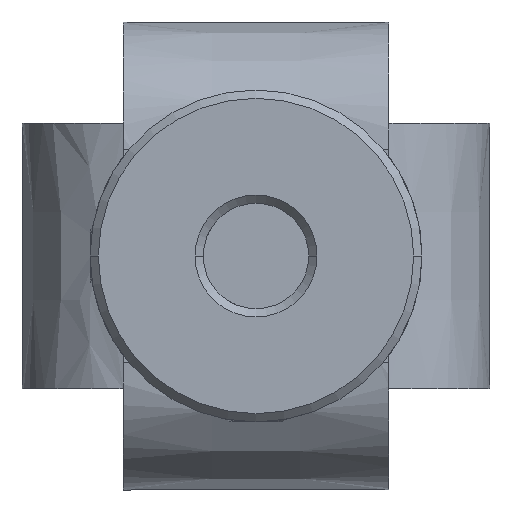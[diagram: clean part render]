
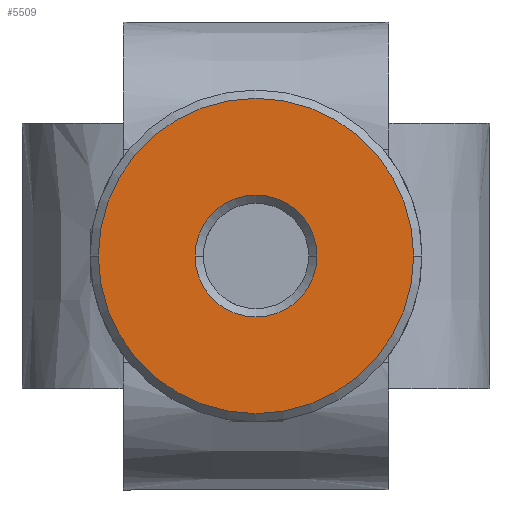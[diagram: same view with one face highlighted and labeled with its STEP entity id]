
A CAD part, front view. The second image highlights one B-rep face of the part: STEP entity #5509.
In plain terms, the highlighted planar face has unit normal (0, -1, 0).
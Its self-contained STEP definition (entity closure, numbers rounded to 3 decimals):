
#96 = FACE_OUTER_BOUND ( 'NONE', #8042, .T. ) ;
#227 = EDGE_CURVE ( 'NONE', #2866, #5730, #4963, .T. ) ;
#233 = DIRECTION ( 'NONE',  ( -1., 0., 0. ) ) ;
#243 = AXIS2_PLACEMENT_3D ( 'NONE', #5597, #3748, #4379 ) ;
#362 = DIRECTION ( 'NONE',  ( 0., 1., 0. ) ) ;
#531 = ORIENTED_EDGE ( 'NONE', *, *, #1750, .T. ) ;
#902 = DIRECTION ( 'NONE',  ( 0., -1., 0. ) ) ;
#1072 = CARTESIAN_POINT ( 'NONE',  ( 9.5, -35.24, 0. ) ) ;
#1413 = CARTESIAN_POINT ( 'NONE',  ( 0., -35.24, 0. ) ) ;
#1605 = AXIS2_PLACEMENT_3D ( 'NONE', #2785, #362, #7726 ) ;
#1750 = EDGE_CURVE ( 'NONE', #6018, #3932, #8014, .T. ) ;
#2124 = DIRECTION ( 'NONE',  ( 0., -1., 0. ) ) ;
#2160 = PLANE ( 'NONE',  #4277 ) ;
#2164 = EDGE_CURVE ( 'NONE', #5730, #2866, #5042, .T. ) ;
#2254 = EDGE_CURVE ( 'NONE', #3932, #6018, #3181, .T. ) ;
#2785 = CARTESIAN_POINT ( 'NONE',  ( 0., -35.24, 0. ) ) ;
#2866 = VERTEX_POINT ( 'NONE', #3576 ) ;
#3072 = CARTESIAN_POINT ( 'NONE',  ( 0., -35.24, 0. ) ) ;
#3155 = ORIENTED_EDGE ( 'NONE', *, *, #2164, .T. ) ;
#3181 = CIRCLE ( 'NONE', #4029, 9.5 ) ;
#3576 = CARTESIAN_POINT ( 'NONE',  ( 3.675, -35.24, 0. ) ) ;
#3696 = DIRECTION ( 'NONE',  ( -1., 0., 0. ) ) ;
#3748 = DIRECTION ( 'NONE',  ( 0., 1., 0. ) ) ;
#3932 = VERTEX_POINT ( 'NONE', #5944 ) ;
#4029 = AXIS2_PLACEMENT_3D ( 'NONE', #3072, #7379, #3696 ) ;
#4107 = DIRECTION ( 'NONE',  ( -1., 0., 0. ) ) ;
#4277 = AXIS2_PLACEMENT_3D ( 'NONE', #7738, #902, #4107 ) ;
#4379 = DIRECTION ( 'NONE',  ( -1., 0., 0. ) ) ;
#4702 = FACE_BOUND ( 'NONE', #6493, .T. ) ;
#4832 = ORIENTED_EDGE ( 'NONE', *, *, #2254, .T. ) ;
#4963 = CIRCLE ( 'NONE', #1605, 3.675 ) ;
#5042 = CIRCLE ( 'NONE', #243, 3.675 ) ;
#5509 = ADVANCED_FACE ( 'NONE', ( #4702, #96 ), #2160, .T. ) ;
#5561 = CARTESIAN_POINT ( 'NONE',  ( -3.675, -35.24, 0. ) ) ;
#5581 = AXIS2_PLACEMENT_3D ( 'NONE', #1413, #2124, #233 ) ;
#5597 = CARTESIAN_POINT ( 'NONE',  ( 0., -35.24, 0. ) ) ;
#5730 = VERTEX_POINT ( 'NONE', #5561 ) ;
#5944 = CARTESIAN_POINT ( 'NONE',  ( -9.5, -35.24, 0. ) ) ;
#6018 = VERTEX_POINT ( 'NONE', #1072 ) ;
#6493 = EDGE_LOOP ( 'NONE', ( #3155, #7450 ) ) ;
#7379 = DIRECTION ( 'NONE',  ( 0., -1., 0. ) ) ;
#7450 = ORIENTED_EDGE ( 'NONE', *, *, #227, .T. ) ;
#7726 = DIRECTION ( 'NONE',  ( -1., 0., 0. ) ) ;
#7738 = CARTESIAN_POINT ( 'NONE',  ( 0., -35.24, 0. ) ) ;
#8014 = CIRCLE ( 'NONE', #5581, 9.5 ) ;
#8042 = EDGE_LOOP ( 'NONE', ( #531, #4832 ) ) ;
